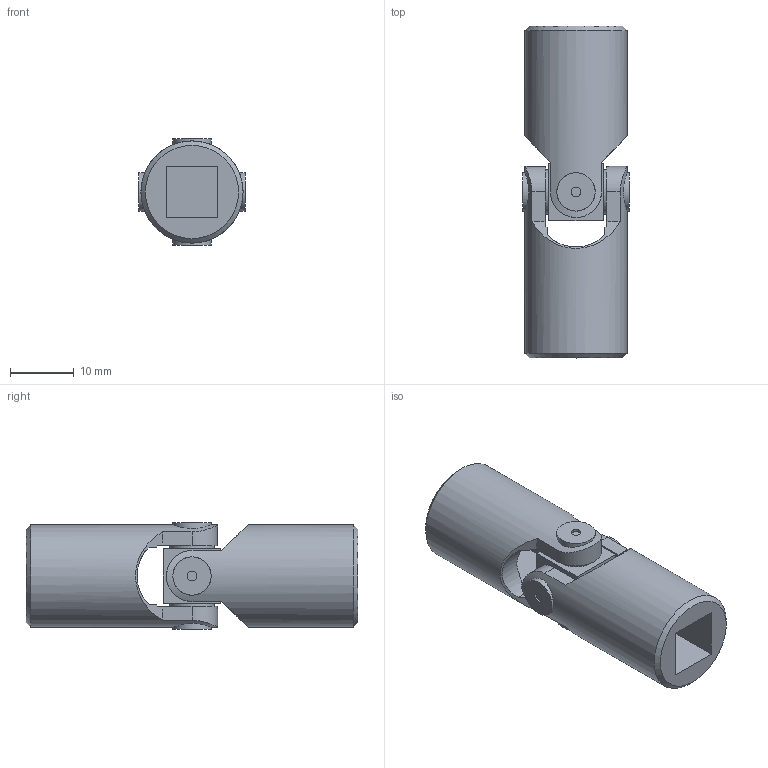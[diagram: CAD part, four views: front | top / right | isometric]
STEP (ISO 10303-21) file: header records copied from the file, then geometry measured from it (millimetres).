
FILE_DESCRIPTION(/* description */ ('EXTENSIBLE TRANSIMISSIONS Series G DIN 808 -2-'),/* implementation_level */ '2;1');
FILE_NAME(/* name */ '\\SRV2016\Societa\Stefano\Disegni 3D\Dis. Clienti\0000Catalogo 3D\01Singoli G-GB\Ø16_03GB-2Q_SGBS102Q.stp',/* time_stamp */ '2021-11-10T15:23:52+01:00',/* author */ ('acquisti'),/* organization */ ('MARIOFERRI'),/* preprocessor_version */ 'ST-DEVELOPER v15.6',/* originating_system */ 'Autodesk Inventor 2015',/* authorisation */ '');
FILE_SCHEMA (('AUTOMOTIVE_DESIGN { 1 0 10303 214 3 1 1 }'));
Length unit declared in the file: millimetre
Products named in the file (3): 01-02G SFE; 03GB MOQ; Assieme4
Assembly tree (3 placements, depth 2):
  Assieme4
    01-02G SFE
    03GB MOQ  x2
Bounding box: 16.7 x 52 x 16.7 mm (x, y, z)
Volume: 6801.1 mm3; surface area: 4929.4 mm2
Topology: 3 solids, 3 shells, 90 faces, 234 edges, 160 vertices
Faces by surface type: plane 44, cylinder 26, cone 18, torus 2
Full cylindrical faces by diameter (mm): 1.5 x4, 6 x4, 7 x4, 16 x2
Entity records: 1709 total; most frequent: CARTESIAN_POINT 515, DIRECTION 228, ORIENTED_EDGE 226, EDGE_CURVE 113, AXIS2_PLACEMENT_3D 94, VERTEX_POINT 83, EDGE_LOOP 72, FACE_OUTER_BOUND 52
